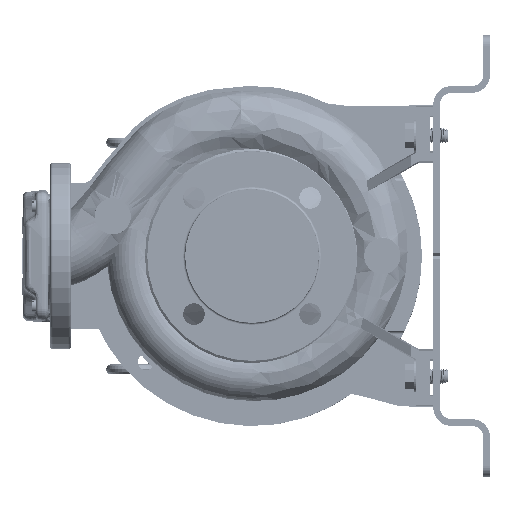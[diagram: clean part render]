
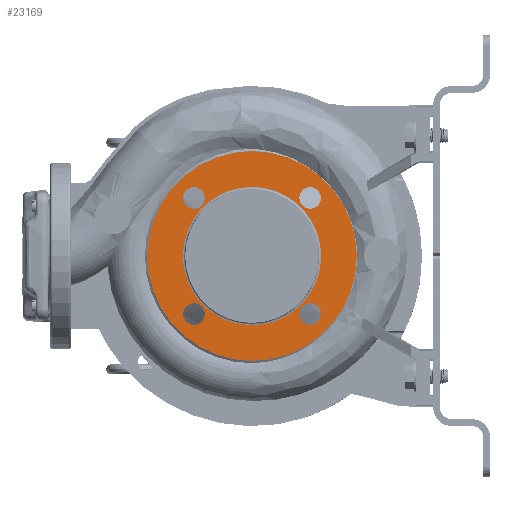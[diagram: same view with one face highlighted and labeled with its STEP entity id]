
A CAD part, left-side view. The second image highlights one B-rep face of the part: STEP entity #23169.
In plain terms, the highlighted planar face has unit normal (-1, 0, 0).
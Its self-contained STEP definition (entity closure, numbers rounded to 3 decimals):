
#791 = CIRCLE ( 'NONE', #64452, 9.5 ) ;
#2418 = DIRECTION ( 'NONE',  ( -1., 0., 0. ) ) ;
#2639 = CARTESIAN_POINT ( 'NONE',  ( -69.829, 237.342, 276.242 ) ) ;
#3364 = EDGE_CURVE ( 'NONE', #80903, #151096, #24887, .T. ) ;
#3428 = DIRECTION ( 'NONE',  ( -1., 0., 0. ) ) ;
#3964 = VERTEX_POINT ( 'NONE', #114222 ) ;
#4378 = VERTEX_POINT ( 'NONE', #156622 ) ;
#8007 = CIRCLE ( 'NONE', #28363, 9.5 ) ;
#9147 = DIRECTION ( 'NONE',  ( -1., 0., 0. ) ) ;
#11577 = EDGE_CURVE ( 'NONE', #89362, #37860, #59019, .T. ) ;
#12683 = VERTEX_POINT ( 'NONE', #70352 ) ;
#14296 = DIRECTION ( 'NONE',  ( 1., 0., 0. ) ) ;
#14849 = AXIS2_PLACEMENT_3D ( 'NONE', #139891, #42858, #155293 ) ;
#17276 = ORIENTED_EDGE ( 'NONE', *, *, #65781, .F. ) ;
#17823 = CARTESIAN_POINT ( 'NONE',  ( -69.829, 83.842, 276.242 ) ) ;
#19073 = CARTESIAN_POINT ( 'NONE',  ( -69.829, 115.577, 327.507 ) ) ;
#19564 = ORIENTED_EDGE ( 'NONE', *, *, #11577, .F. ) ;
#20352 = EDGE_CURVE ( 'NONE', #27722, #68350, #45270, .T. ) ;
#20957 = CARTESIAN_POINT ( 'NONE',  ( -69.829, 176.342, 276.242 ) ) ;
#21700 = ORIENTED_EDGE ( 'NONE', *, *, #20352, .F. ) ;
#22554 = FACE_BOUND ( 'NONE', #62304, .T. ) ;
#23169 = ADVANCED_FACE ( 'NONE', ( #22554, #162155, #174919, #65084, #52362, #120434 ), #175813, .F. ) ;
#24471 = CIRCLE ( 'NONE', #145995, 61. ) ;
#24887 = CIRCLE ( 'NONE', #53819, 92.5 ) ;
#26245 = DIRECTION ( 'NONE',  ( -1., 0., 0. ) ) ;
#26784 = DIRECTION ( 'NONE',  ( 0., -1., 0. ) ) ;
#27722 = VERTEX_POINT ( 'NONE', #2639 ) ;
#28363 = AXIS2_PLACEMENT_3D ( 'NONE', #71329, #2418, #44142 ) ;
#30261 = DIRECTION ( 'NONE',  ( -1., 0., 0. ) ) ;
#30464 = EDGE_CURVE ( 'NONE', #12683, #4378, #102788, .T. ) ;
#30600 = ORIENTED_EDGE ( 'NONE', *, *, #145689, .T. ) ;
#34192 = DIRECTION ( 'NONE',  ( 0., -1., 0. ) ) ;
#34701 = DIRECTION ( 'NONE',  ( 0., -1., 0. ) ) ;
#37860 = VERTEX_POINT ( 'NONE', #79207 ) ;
#38264 = DIRECTION ( 'NONE',  ( -1., 0., 0. ) ) ;
#42354 = DIRECTION ( 'NONE',  ( 0., 0., 1. ) ) ;
#42858 = DIRECTION ( 'NONE',  ( -1., 0., 0. ) ) ;
#44142 = DIRECTION ( 'NONE',  ( 0., 0., -1. ) ) ;
#44161 = DIRECTION ( 'NONE',  ( 0., 1., 0. ) ) ;
#45270 = CIRCLE ( 'NONE', #114633, 61. ) ;
#46286 = CARTESIAN_POINT ( 'NONE',  ( -69.829, 268.842, 276.242 ) ) ;
#46528 = EDGE_CURVE ( 'NONE', #119131, #3964, #791, .T. ) ;
#46778 = ORIENTED_EDGE ( 'NONE', *, *, #3364, .T. ) ;
#47391 = AXIS2_PLACEMENT_3D ( 'NONE', #57428, #30261, #85523 ) ;
#52362 = FACE_BOUND ( 'NONE', #96713, .T. ) ;
#53036 = DIRECTION ( 'NONE',  ( -1., 0., 0. ) ) ;
#53633 = EDGE_CURVE ( 'NONE', #4378, #12683, #110334, .T. ) ;
#53819 = AXIS2_PLACEMENT_3D ( 'NONE', #20957, #90687, #76203 ) ;
#54627 = CARTESIAN_POINT ( 'NONE',  ( -69.829, 125.077, 224.977 ) ) ;
#54932 = EDGE_LOOP ( 'NONE', ( #114833, #146612 ) ) ;
#56183 = CIRCLE ( 'NONE', #47391, 9.5 ) ;
#56844 = CARTESIAN_POINT ( 'NONE',  ( -69.829, 237.342, 276.242 ) ) ;
#57428 = CARTESIAN_POINT ( 'NONE',  ( -69.829, 125.077, 327.507 ) ) ;
#58084 = VERTEX_POINT ( 'NONE', #149134 ) ;
#59019 = CIRCLE ( 'NONE', #160415, 9.5 ) ;
#62304 = EDGE_LOOP ( 'NONE', ( #108994, #17276 ) ) ;
#64418 = AXIS2_PLACEMENT_3D ( 'NONE', #127661, #3428, #34192 ) ;
#64452 = AXIS2_PLACEMENT_3D ( 'NONE', #90078, #115532, #146344 ) ;
#65084 = FACE_BOUND ( 'NONE', #54932, .T. ) ;
#65781 = EDGE_CURVE ( 'NONE', #58084, #166483, #56183, .T. ) ;
#66914 = CARTESIAN_POINT ( 'NONE',  ( -69.829, 237.107, 224.977 ) ) ;
#68350 = VERTEX_POINT ( 'NONE', #105556 ) ;
#70352 = CARTESIAN_POINT ( 'NONE',  ( -69.829, 218.107, 327.507 ) ) ;
#70454 = CARTESIAN_POINT ( 'NONE',  ( -69.829, 227.607, 224.977 ) ) ;
#71105 = CARTESIAN_POINT ( 'NONE',  ( -69.829, 176.342, 276.242 ) ) ;
#71329 = CARTESIAN_POINT ( 'NONE',  ( -69.829, 125.077, 327.507 ) ) ;
#76203 = DIRECTION ( 'NONE',  ( 0., -1., 0. ) ) ;
#79207 = CARTESIAN_POINT ( 'NONE',  ( -69.829, 218.107, 224.977 ) ) ;
#80038 = DIRECTION ( 'NONE',  ( -1., 0., 0. ) ) ;
#80903 = VERTEX_POINT ( 'NONE', #17823 ) ;
#83384 = CARTESIAN_POINT ( 'NONE',  ( -69.829, 115.577, 224.977 ) ) ;
#85523 = DIRECTION ( 'NONE',  ( 0., 0., -1. ) ) ;
#86389 = AXIS2_PLACEMENT_3D ( 'NONE', #56844, #14296, #44161 ) ;
#89196 = ORIENTED_EDGE ( 'NONE', *, *, #179328, .F. ) ;
#89362 = VERTEX_POINT ( 'NONE', #66914 ) ;
#90078 = CARTESIAN_POINT ( 'NONE',  ( -69.829, 125.077, 224.977 ) ) ;
#90687 = DIRECTION ( 'NONE',  ( -1., 0., 0. ) ) ;
#94282 = ORIENTED_EDGE ( 'NONE', *, *, #112517, .F. ) ;
#95962 = DIRECTION ( 'NONE',  ( 0., 0., 1. ) ) ;
#96713 = EDGE_LOOP ( 'NONE', ( #94282, #21700 ) ) ;
#102788 = CIRCLE ( 'NONE', #120164, 9.5 ) ;
#103637 = AXIS2_PLACEMENT_3D ( 'NONE', #54627, #80038, #109949 ) ;
#105556 = CARTESIAN_POINT ( 'NONE',  ( -69.829, 115.342, 276.242 ) ) ;
#108994 = ORIENTED_EDGE ( 'NONE', *, *, #159062, .F. ) ;
#109949 = DIRECTION ( 'NONE',  ( 0., 1., 0. ) ) ;
#110334 = CIRCLE ( 'NONE', #14849, 9.5 ) ;
#111367 = AXIS2_PLACEMENT_3D ( 'NONE', #70454, #9147, #42354 ) ;
#112517 = EDGE_CURVE ( 'NONE', #68350, #27722, #24471, .T. ) ;
#114222 = CARTESIAN_POINT ( 'NONE',  ( -69.829, 134.577, 224.977 ) ) ;
#114633 = AXIS2_PLACEMENT_3D ( 'NONE', #121711, #38264, #34701 ) ;
#114833 = ORIENTED_EDGE ( 'NONE', *, *, #30464, .F. ) ;
#115532 = DIRECTION ( 'NONE',  ( -1., 0., 0. ) ) ;
#118941 = EDGE_CURVE ( 'NONE', #3964, #119131, #176109, .T. ) ;
#119131 = VERTEX_POINT ( 'NONE', #83384 ) ;
#120164 = AXIS2_PLACEMENT_3D ( 'NONE', #156328, #154534, #169076 ) ;
#120434 = FACE_OUTER_BOUND ( 'NONE', #134945, .T. ) ;
#121711 = CARTESIAN_POINT ( 'NONE',  ( -69.829, 176.342, 276.242 ) ) ;
#122313 = CARTESIAN_POINT ( 'NONE',  ( -69.829, 227.607, 224.977 ) ) ;
#126012 = EDGE_LOOP ( 'NONE', ( #151178, #151170 ) ) ;
#127661 = CARTESIAN_POINT ( 'NONE',  ( -69.829, 176.342, 276.242 ) ) ;
#134945 = EDGE_LOOP ( 'NONE', ( #46778, #30600 ) ) ;
#139891 = CARTESIAN_POINT ( 'NONE',  ( -69.829, 227.607, 327.507 ) ) ;
#140742 = EDGE_LOOP ( 'NONE', ( #89196, #19564 ) ) ;
#145689 = EDGE_CURVE ( 'NONE', #151096, #80903, #160144, .T. ) ;
#145995 = AXIS2_PLACEMENT_3D ( 'NONE', #71105, #53036, #26784 ) ;
#146344 = DIRECTION ( 'NONE',  ( 0., 1., 0. ) ) ;
#146612 = ORIENTED_EDGE ( 'NONE', *, *, #53633, .F. ) ;
#149134 = CARTESIAN_POINT ( 'NONE',  ( -69.829, 134.577, 327.507 ) ) ;
#151096 = VERTEX_POINT ( 'NONE', #46286 ) ;
#151170 = ORIENTED_EDGE ( 'NONE', *, *, #118941, .F. ) ;
#151178 = ORIENTED_EDGE ( 'NONE', *, *, #46528, .F. ) ;
#154534 = DIRECTION ( 'NONE',  ( -1., 0., 0. ) ) ;
#155293 = DIRECTION ( 'NONE',  ( 0., -1., 0. ) ) ;
#156328 = CARTESIAN_POINT ( 'NONE',  ( -69.829, 227.607, 327.507 ) ) ;
#156622 = CARTESIAN_POINT ( 'NONE',  ( -69.829, 237.107, 327.507 ) ) ;
#159062 = EDGE_CURVE ( 'NONE', #166483, #58084, #8007, .T. ) ;
#160144 = CIRCLE ( 'NONE', #64418, 92.5 ) ;
#160415 = AXIS2_PLACEMENT_3D ( 'NONE', #122313, #26245, #95962 ) ;
#162155 = FACE_BOUND ( 'NONE', #126012, .T. ) ;
#166483 = VERTEX_POINT ( 'NONE', #19073 ) ;
#169076 = DIRECTION ( 'NONE',  ( 0., -1., 0. ) ) ;
#174919 = FACE_BOUND ( 'NONE', #140742, .T. ) ;
#175813 = PLANE ( 'NONE',  #86389 ) ;
#176109 = CIRCLE ( 'NONE', #103637, 9.5 ) ;
#177989 = CIRCLE ( 'NONE', #111367, 9.5 ) ;
#179328 = EDGE_CURVE ( 'NONE', #37860, #89362, #177989, .T. ) ;
